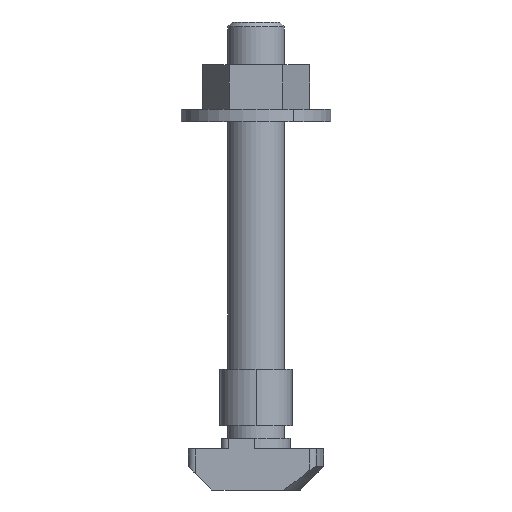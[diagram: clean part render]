
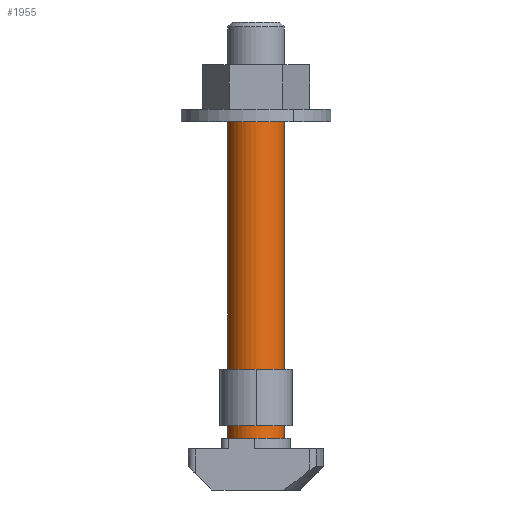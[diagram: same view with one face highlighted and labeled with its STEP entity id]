
A CAD part, left-side view. The second image highlights one B-rep face of the part: STEP entity #1955.
In plain terms, the highlighted cylindrical face has radius 4 mm (diameter 8 mm), a partial arc.
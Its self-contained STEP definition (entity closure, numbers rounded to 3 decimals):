
#57 = ORIENTED_EDGE ( 'NONE', *, *, #2281, .T. ) ;
#106 = CARTESIAN_POINT ( 'NONE',  ( 8., 33.2, 40. ) ) ;
#205 = CARTESIAN_POINT ( 'NONE',  ( 7.954, 41.2, 1.221 ) ) ;
#219 = CARTESIAN_POINT ( 'NONE',  ( 7.974, 41.2, 1.157 ) ) ;
#350 = VERTEX_POINT ( 'NONE', #2022 ) ;
#390 = CARTESIAN_POINT ( 'NONE',  ( 8., 37.2, 40. ) ) ;
#462 = CARTESIAN_POINT ( 'NONE',  ( 8., 41.2, 1.25 ) ) ;
#479 = CARTESIAN_POINT ( 'NONE',  ( 7.951, 41.2, 1.211 ) ) ;
#490 = CARTESIAN_POINT ( 'NONE',  ( 7.984, 41.2, 1.152 ) ) ;
#587 = AXIS2_PLACEMENT_3D ( 'NONE', #627, #2398, #888 ) ;
#627 = CARTESIAN_POINT ( 'NONE',  ( 8., 37.2, -4.5 ) ) ;
#653 = DIRECTION ( 'NONE',  ( 1., 0., 0. ) ) ;
#663 = CARTESIAN_POINT ( 'NONE',  ( 8., 41.2, 54. ) ) ;
#693 = CIRCLE ( 'NONE', #587, 4. ) ;
#700 = EDGE_CURVE ( 'NONE', #1984, #350, #1254, .T. ) ;
#732 = CARTESIAN_POINT ( 'NONE',  ( 7.992, 41.2, 1.25 ) ) ;
#741 = CARTESIAN_POINT ( 'NONE',  ( 7.95, 41.2, 1.199 ) ) ;
#749 = CARTESIAN_POINT ( 'NONE',  ( 7.993, 41.2, 1.15 ) ) ;
#813 = FACE_OUTER_BOUND ( 'NONE', #1906, .T. ) ;
#864 = CARTESIAN_POINT ( 'NONE',  ( 8., 41.2, 54. ) ) ;
#876 = EDGE_CURVE ( 'NONE', #1888, #1914, #2545, .T. ) ;
#883 = DIRECTION ( 'NONE',  ( 0., 1., 0. ) ) ;
#888 = DIRECTION ( 'NONE',  ( 0., 1., 0. ) ) ;
#982 = CARTESIAN_POINT ( 'NONE',  ( 7.983, 41.2, 1.247 ) ) ;
#996 = CARTESIAN_POINT ( 'NONE',  ( 7.951, 41.2, 1.188 ) ) ;
#1002 = CARTESIAN_POINT ( 'NONE',  ( 8., 33.2, -4.5 ) ) ;
#1010 = CARTESIAN_POINT ( 'NONE',  ( 8., 41.2, 1.15 ) ) ;
#1129 = AXIS2_PLACEMENT_3D ( 'NONE', #2638, #1148, #883 ) ;
#1137 = DIRECTION ( 'NONE',  ( 0., 0., -1. ) ) ;
#1148 = DIRECTION ( 'NONE',  ( 0., 0., -1. ) ) ;
#1162 = AXIS2_PLACEMENT_3D ( 'NONE', #390, #2168, #653 ) ;
#1218 = LINE ( 'NONE', #1416, #2546 ) ;
#1246 = ORIENTED_EDGE ( 'NONE', *, *, #700, .T. ) ;
#1249 = CARTESIAN_POINT ( 'NONE',  ( 7.973, 41.2, 1.242 ) ) ;
#1254 = CIRCLE ( 'NONE', #1162, 4. ) ;
#1258 = CARTESIAN_POINT ( 'NONE',  ( 7.955, 41.2, 1.178 ) ) ;
#1416 = CARTESIAN_POINT ( 'NONE',  ( 8., 33.2, 54. ) ) ;
#1417 = CYLINDRICAL_SURFACE ( 'NONE', #1129, 4. ) ;
#1443 = VERTEX_POINT ( 'NONE', #1002 ) ;
#1503 = CARTESIAN_POINT ( 'NONE',  ( 7.964, 41.2, 1.235 ) ) ;
#1512 = CARTESIAN_POINT ( 'NONE',  ( 7.961, 41.2, 1.168 ) ) ;
#1676 = DIRECTION ( 'NONE',  ( 0., 0., -1. ) ) ;
#1694 = VECTOR ( 'NONE', #1943, 1000. ) ;
#1760 = CARTESIAN_POINT ( 'NONE',  ( 7.957, 41.2, 1.226 ) ) ;
#1772 = CARTESIAN_POINT ( 'NONE',  ( 7.969, 41.2, 1.16 ) ) ;
#1801 = ORIENTED_EDGE ( 'NONE', *, *, #3121, .T. ) ;
#1888 = VERTEX_POINT ( 'NONE', #2597 ) ;
#1898 = LINE ( 'NONE', #864, #2464 ) ;
#1906 = EDGE_LOOP ( 'NONE', ( #1948, #1246, #57, #2679, #1801, #2634 ) ) ;
#1914 = VERTEX_POINT ( 'NONE', #2131 ) ;
#1943 = DIRECTION ( 'NONE',  ( 0., 0., -1. ) ) ;
#1948 = ORIENTED_EDGE ( 'NONE', *, *, #2829, .F. ) ;
#1955 = ADVANCED_FACE ( 'NONE', ( #813 ), #1417, .T. ) ;
#1984 = VERTEX_POINT ( 'NONE', #106 ) ;
#2006 = CARTESIAN_POINT ( 'NONE',  ( 7.953, 41.2, 1.216 ) ) ;
#2017 = CARTESIAN_POINT ( 'NONE',  ( 7.979, 41.2, 1.154 ) ) ;
#2022 = CARTESIAN_POINT ( 'NONE',  ( 8., 41.2, 40. ) ) ;
#2131 = CARTESIAN_POINT ( 'NONE',  ( 8., 41.2, 1.15 ) ) ;
#2168 = DIRECTION ( 'NONE',  ( 0., 0., -1. ) ) ;
#2238 = CARTESIAN_POINT ( 'NONE',  ( 7.996, 41.2, 1.25 ) ) ;
#2243 = CARTESIAN_POINT ( 'NONE',  ( 7.95, 41.2, 1.205 ) ) ;
#2251 = VERTEX_POINT ( 'NONE', #3117 ) ;
#2254 = CARTESIAN_POINT ( 'NONE',  ( 7.99, 41.2, 1.151 ) ) ;
#2281 = EDGE_CURVE ( 'NONE', #350, #1888, #1898, .T. ) ;
#2350 = LINE ( 'NONE', #663, #1694 ) ;
#2398 = DIRECTION ( 'NONE',  ( 0., 0., -1. ) ) ;
#2464 = VECTOR ( 'NONE', #1137, 1000. ) ;
#2484 = CARTESIAN_POINT ( 'NONE',  ( 7.989, 41.2, 1.249 ) ) ;
#2497 = CARTESIAN_POINT ( 'NONE',  ( 7.95, 41.2, 1.194 ) ) ;
#2507 = CARTESIAN_POINT ( 'NONE',  ( 7.996, 41.2, 1.15 ) ) ;
#2545 = B_SPLINE_CURVE_WITH_KNOTS ( 'NONE', 3,
 ( #462, #2238, #732, #2484, #982, #2741, #1249, #2985, #1503, #3246, #1760, #205, #2006, #479, #2243, #741, #2497, #996, #2749, #1258, #2996, #1512, #3255, #1772, #219, #2017, #490, #2254, #749, #2507, #1010 ),
 .UNSPECIFIED., .F., .F.,
 ( 4, 3, 3, 3, 3, 3, 3, 3, 3, 3, 4 ),
 ( 0., 0., 0., 0., 0., 0., 0., 0., 0., 0., 0. ),
 .UNSPECIFIED. ) ;
#2546 = VECTOR ( 'NONE', #1676, 1000. ) ;
#2597 = CARTESIAN_POINT ( 'NONE',  ( 8., 41.2, 1.25 ) ) ;
#2634 = ORIENTED_EDGE ( 'NONE', *, *, #2737, .F. ) ;
#2638 = CARTESIAN_POINT ( 'NONE',  ( 8., 37.2, 54. ) ) ;
#2679 = ORIENTED_EDGE ( 'NONE', *, *, #876, .T. ) ;
#2737 = EDGE_CURVE ( 'NONE', #1443, #2251, #693, .T. ) ;
#2741 = CARTESIAN_POINT ( 'NONE',  ( 7.978, 41.2, 1.245 ) ) ;
#2749 = CARTESIAN_POINT ( 'NONE',  ( 7.953, 41.2, 1.183 ) ) ;
#2829 = EDGE_CURVE ( 'NONE', #1984, #1443, #1218, .T. ) ;
#2985 = CARTESIAN_POINT ( 'NONE',  ( 7.968, 41.2, 1.239 ) ) ;
#2996 = CARTESIAN_POINT ( 'NONE',  ( 7.958, 41.2, 1.173 ) ) ;
#3117 = CARTESIAN_POINT ( 'NONE',  ( 8., 41.2, -4.5 ) ) ;
#3121 = EDGE_CURVE ( 'NONE', #1914, #2251, #2350, .T. ) ;
#3246 = CARTESIAN_POINT ( 'NONE',  ( 7.961, 41.2, 1.231 ) ) ;
#3255 = CARTESIAN_POINT ( 'NONE',  ( 7.965, 41.2, 1.164 ) ) ;
